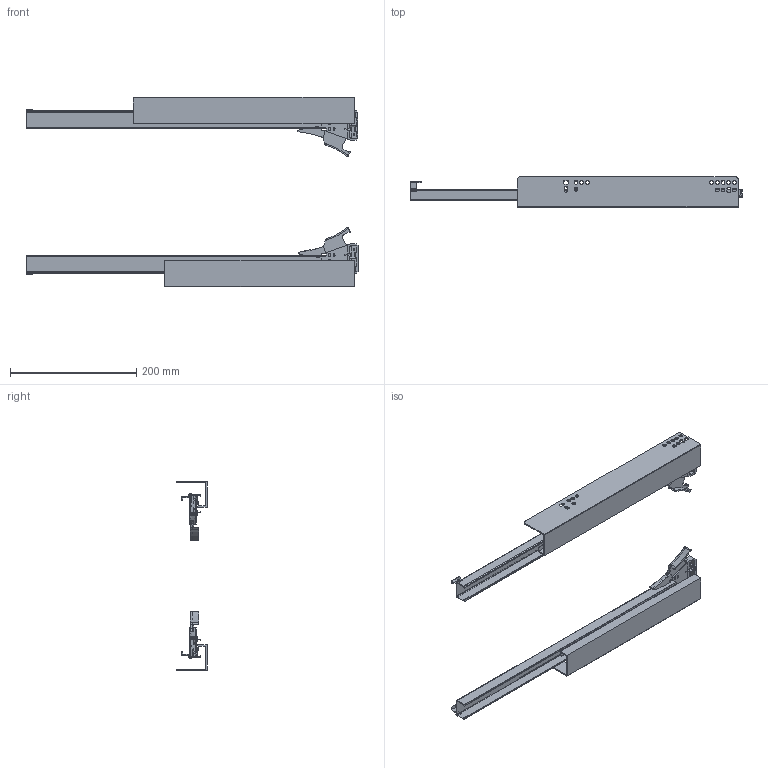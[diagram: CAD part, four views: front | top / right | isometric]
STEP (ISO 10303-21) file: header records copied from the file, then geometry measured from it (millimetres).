
FILE_DESCRIPTION(/* description */ (''),/* implementation_level */ '2;1');
FILE_NAME(/* name */ 'C:\Users\dmitruk\Documents\WORK\НАПРАВЛЯЮЩИЕ\Скрытого монтажа\PUSH\Направляющие скрытого монтажа PUSH TO OPEN\Направляющие скрытого монтажа PUSH TO OPEN-500.stp',/* time_stamp */ '2022-04-22T12:22:02+03:00',/* author */ ('dmitruk'),/* organization */ (''),/* preprocessor_version */ 'ST-DEVELOPER v16.5',/* originating_system */ 'Autodesk Inventor 2017',/* authorisation */ '');
FILE_SCHEMA (('AUTOMOTIVE_DESIGN { 1 0 10303 214 3 1 1 }'));
Length unit declared in the file: millimetre
Products named in the file (13): Направляющие \X2\0441043A
0440044B0442043E0433043E\X0\ монтажа PUSH
 TO OPEN; 3D CP Push; 3D DP Push; 3D CP Push LEFT; 3D DP Push LEFT; Замок Push R; Твердое \X2\04420435043B043E
\X0\1; Твердое \X2\04420435043B043E
\X0\2; Твердое \X2\04420435043B043E
\X0\3; Замок Pusg L; Твердое \X2\04420435043B043E
\X0\1_1; Твердое \X2\04420435043B043E
\X0\2_1; Твердое \X2\04420435043B043E
\X0\3_1
Assembly tree (12 placements, depth 3):
  Направляющие \X2\0441043A
0440044B0442043E0433043E\X0\ монтажа PUSH
 TO OPEN
    3D CP Push
    3D DP Push
    3D CP Push LEFT
    3D DP Push LEFT
    Замок Push R
      Твердое \X2\04420435043B043E
\X0\1
      Твердое \X2\04420435043B043E
\X0\2
      Твердое \X2\04420435043B043E
\X0\3
    Замок Pusg L
      Твердое \X2\04420435043B043E
\X0\1_1
      Твердое \X2\04420435043B043E
\X0\2_1
      Твердое \X2\04420435043B043E
\X0\3_1
Bounding box: 526 x 48 x 300 mm (x, y, z)
Volume: 227769.3 mm3; surface area: 300639.1 mm2
Topology: 10 solids, 10 shells, 812 faces, 2272 edges, 1504 vertices
Faces by surface type: plane 542, cylinder 250, cone 10, bspline 6, sphere 2, torus 2
Full cylindrical faces by diameter (mm): 3 x12, 6 x26
Entity records: 26647 total; most frequent: CARTESIAN_POINT 4887, ORIENTED_EDGE 4428, DIRECTION 4392, EDGE_CURVE 2214, LINE 1646, VECTOR 1646, VERTEX_POINT 1492, AXIS2_PLACEMENT_3D 1373
